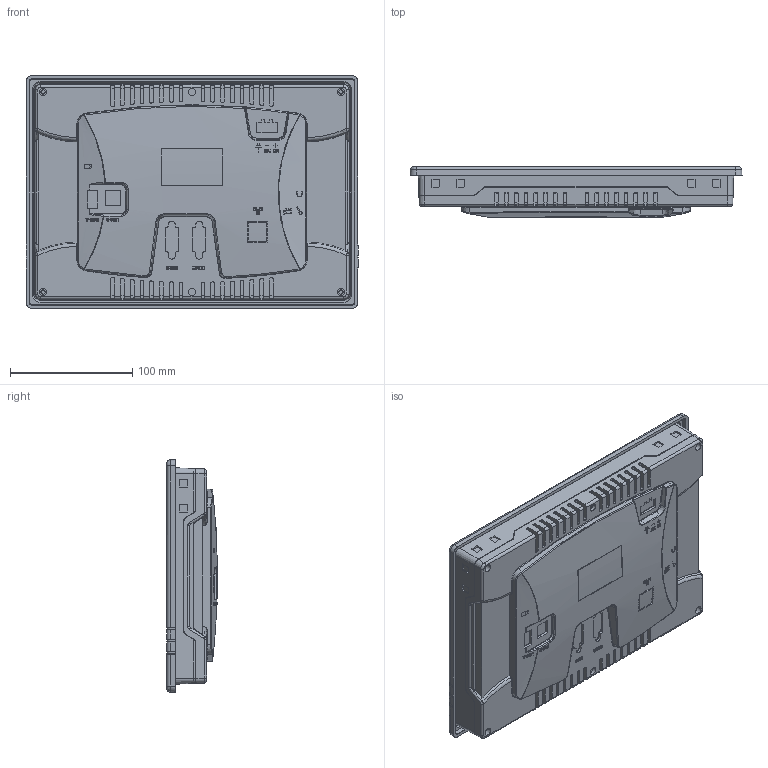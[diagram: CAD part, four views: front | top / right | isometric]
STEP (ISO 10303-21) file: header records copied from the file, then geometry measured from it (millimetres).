
FILE_DESCRIPTION((''),'2;1');
FILE_NAME('10_2-HMI','2016-01-27T',('Administrator'),(''),'PRO/ENGINEER BY PARAMETRIC TECHNOLOGY CORPORATION, 2010280','PRO/ENGINEER BY PARAMETRIC TECHNOLOGY CORPORATION, 2010280','');
FILE_SCHEMA(('CONFIG_CONTROL_DESIGN'));
Products named in the file (1): 10_2-HMI
Bounding box: 272 x 41.57 x 190.7 mm (x, y, z)
Volume: 1464605.2 mm3; surface area: 198481.6 mm2
Topology: 3 solids, 5 shells, 2257 faces, 6219 edges, 4046 vertices
Faces by surface type: plane 1433, cylinder 534, bspline 188, torus 52, cone 42, sphere 8
Entity records: 79127 total; most frequent: CARTESIAN_POINT 24252, ORIENTED_EDGE 12438, DIRECTION 10040, EDGE_CURVE 6219, VERTEX_POINT 4046, VECTOR 3560, LINE 3560, AXIS2_PLACEMENT_3D 3240
